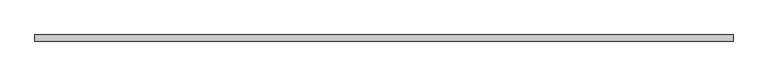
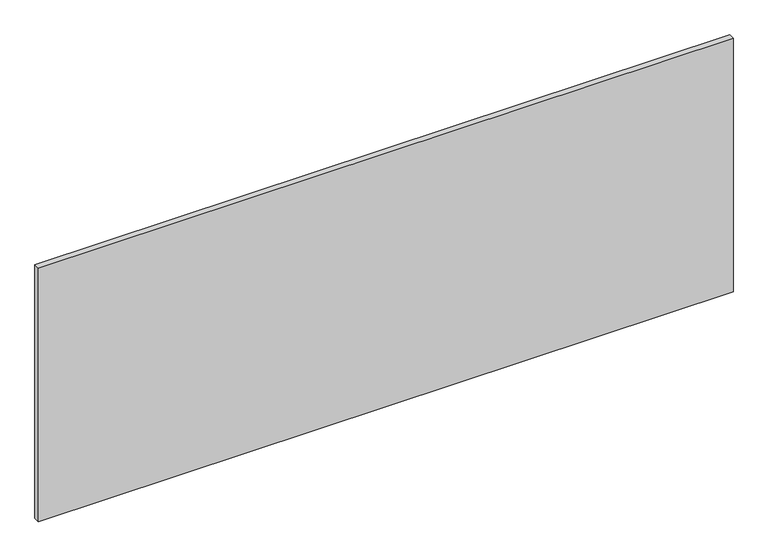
"""IFC4 building model written with IfcOpenShell, lengths in millimetres: furniture geometry, ajuste mueble - esquinas6 : ajuste mueble - esquinas."""

from ifc_helpers import new_model, si_unit, frame, origin, place, context, project, spatial, polyline, outline, extrude, source, transform, mapped, element, save


def furniture_b7afe628(model_context):
    return source(origin(), model_context, "Body", "SweptSolid", [
        extrude(outline(polyline([(34874.9889682, 31687.6393844), (36743.2862106, 31687.6393844), (36743.2862106, 31671.3005493), (34874.9889682, 31671.3005493), (34874.9889682, 31687.6393844)])), frame((0.0, 0.0, 6150.0), z_axis=(0.0, 0.0, 1.0), x_axis=(1.0, 0.0, 0.0)), (0.0, 0.0, 1.0), 720.0),
    ])


if __name__ == "__main__":
    model = new_model("IFC4")
    model_context = context("Model", 3, world=origin())
    ifc_project = project(units=[si_unit("LENGTHUNIT", "METRE", prefix="MILLI")], contexts=[model_context])
    site = spatial("IfcSite", under=ifc_project)
    building = spatial("IfcBuilding", under=site)
    placement = place(None, origin())
    furniture_shape = furniture_b7afe628(model_context)
    element("IfcFurniture", 1, ObjectType="ajuste mueble - esquinas6 : ajuste mueble - esquinas", at=placement, inside=building, context=model_context, shape_type="MappedRepresentation", body=[
        mapped(furniture_shape, transform((0.0, 0.0, 0.0), x_axis=(1.0, 0.0, 0.0), y_axis=(0.0, 1.0, 0.0), z_axis=(0.0, 0.0, 1.0))),
    ])
    save(model, "model.ifc")
